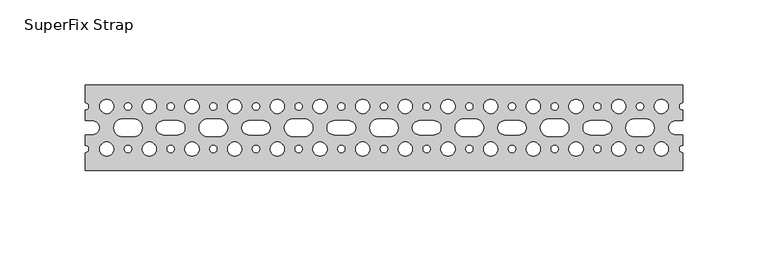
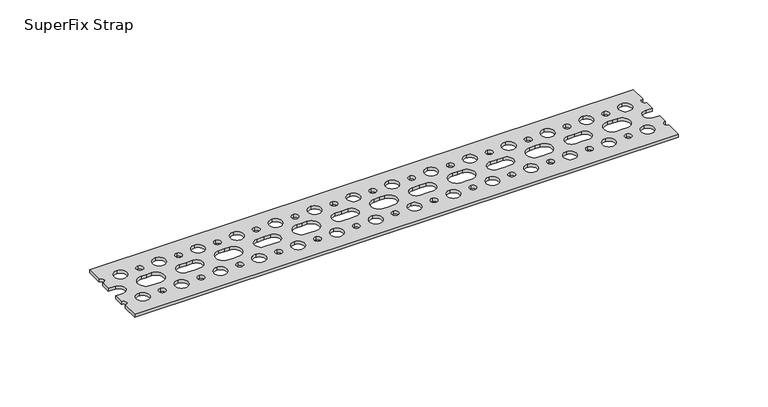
"""IFC4 building model written with IfcOpenShell, lengths in millimetres: valve geometry, Superfix Strap : SuperFix Strap."""

from ifc_helpers import new_model, si_unit, point, frame_2d, origin, origin_with_axes, place, context, project, spatial, polyline, circle_curve, trimmed, segment, composite_curve, outline, extrude, source, transform, mapped, element, save


def superfix_strap_43a990a7(model_context):
    return source(origin(), model_context, "Body", "SweptSolid", [
        extrude(outline(composite_curve([segment(polyline([(175.0, -25.0), (-175.0, -25.0), (-175.0, -14.65)]), True, "CONTINUOUS"), segment(trimmed(circle_curve(frame_2d((-175.0, -12.5)), 2.15), [point((-175.0, -14.65))], [point((-175.0, -10.35))], True, "CARTESIAN"), True, "CONTINUOUS"), segment(polyline([(-175.0, -10.35), (-175.0, -4.15), (-170.75, -4.15)]), True, "CONTINUOUS"), segment(trimmed(circle_curve(frame_2d((-170.75, 0.0)), 4.15), [point((-170.75, -4.15))], [point((-170.75, 4.15))], True, "CARTESIAN"), True, "CONTINUOUS"), segment(polyline([(-170.75, 4.15), (-175.0, 4.15), (-175.0, 10.35)]), True, "CONTINUOUS"), segment(trimmed(circle_curve(frame_2d((-175.0, 12.5)), 2.15), [point((-175.0, 10.35))], [point((-175.0, 14.65))], True, "CARTESIAN"), True, "CONTINUOUS"), segment(polyline([(-175.0, 14.65), (-175.0, 25.0), (175.0, 25.0), (175.0, 14.65)]), True, "CONTINUOUS"), segment(trimmed(circle_curve(frame_2d((175.0, 12.5)), 2.15), [point((175.0, 14.65))], [point((175.0, 10.35))], True, "CARTESIAN"), True, "CONTINUOUS"), segment(polyline([(175.0, 10.35), (175.0, 4.15), (170.75, 4.15)]), True, "CONTINUOUS"), segment(trimmed(circle_curve(frame_2d((170.75, 0.0)), 4.15), [point((170.75, 4.15))], [point((170.75, -4.15))], True, "CARTESIAN"), True, "CONTINUOUS"), segment(polyline([(170.75, -4.15), (175.0, -4.15), (175.0, -10.35)]), True, "CONTINUOUS"), segment(trimmed(circle_curve(frame_2d((175.0, -12.5)), 2.15), [point((175.0, -10.35))], [point((175.0, -14.65))], True, "CARTESIAN"), True, "CONTINUOUS"), segment(polyline([(175.0, -14.65), (175.0, -25.0)]), True, "CONTINUOUS")], self_intersect=False), holes=[composite_curve([segment(polyline([(25.0, 4.15), (20.75, 4.15)]), True, "CONTINUOUS"), segment(trimmed(circle_curve(frame_2d((20.75, 0.0)), 4.15), [point((20.75, 4.15))], [point((20.75, -4.15))], True, "CARTESIAN"), True, "CONTINUOUS"), segment(polyline([(20.75, -4.15), (25.0, -4.15), (29.25, -4.15)]), True, "CONTINUOUS"), segment(trimmed(circle_curve(frame_2d((29.25, 0.0)), 4.15), [point((29.25, -4.15))], [point((29.25, 4.15))], True, "CARTESIAN"), True, "CONTINUOUS"), segment(polyline([(29.25, 4.15), (25.0, 4.15)]), True, "CONTINUOUS")], self_intersect=False), composite_curve([segment(polyline([(0.0, 5.15), (-3.25, 5.15)]), True, "CONTINUOUS"), segment(trimmed(circle_curve(frame_2d((-3.25, 0.0)), 5.15), [point((-3.25, 5.15))], [point((-3.25, -5.15))], True, "CARTESIAN"), True, "CONTINUOUS"), segment(polyline([(-3.25, -5.15), (0.0, -5.15), (3.25, -5.15)]), True, "CONTINUOUS"), segment(trimmed(circle_curve(frame_2d((3.25, 0.0)), 5.15), [point((3.25, -5.15))], [point((3.25, 5.15))], True, "CARTESIAN"), True, "CONTINUOUS"), segment(polyline([(3.25, 5.15), (0.0, 5.15)]), True, "CONTINUOUS")], self_intersect=False), composite_curve([segment(trimmed(circle_curve(frame_2d((0.0, 12.5)), 2.15), [point((0.0, 14.65))], [point((0.0, 10.35))], True, "CARTESIAN"), True, "CONTINUOUS"), segment(trimmed(circle_curve(frame_2d((0.0, 12.5)), 2.15), [point((0.0, 10.35))], [point((0.0, 14.65))], True, "CARTESIAN"), True, "CONTINUOUS")], self_intersect=False), composite_curve([segment(trimmed(circle_curve(frame_2d((25.0, 12.5)), 2.15), [point((25.0, 14.65))], [point((25.0, 10.35))], True, "CARTESIAN"), True, "CONTINUOUS"), segment(trimmed(circle_curve(frame_2d((25.0, 12.5)), 2.15), [point((25.0, 10.35))], [point((25.0, 14.65))], True, "CARTESIAN"), True, "CONTINUOUS")], self_intersect=False), composite_curve([segment(trimmed(circle_curve(frame_2d((25.0, -12.5)), 2.15), [point((25.0, -10.35))], [point((25.0, -14.65))], True, "CARTESIAN"), True, "CONTINUOUS"), segment(trimmed(circle_curve(frame_2d((25.0, -12.5)), 2.15), [point((25.0, -14.65))], [point((25.0, -10.35))], True, "CARTESIAN"), True, "CONTINUOUS")], self_intersect=False), composite_curve([segment(trimmed(circle_curve(frame_2d((0.0, -12.5)), 2.15), [point((0.0, -10.35))], [point((0.0, -14.65))], True, "CARTESIAN"), True, "CONTINUOUS"), segment(trimmed(circle_curve(frame_2d((0.0, -12.5)), 2.15), [point((0.0, -14.65))], [point((0.0, -10.35))], True, "CARTESIAN"), True, "CONTINUOUS")], self_intersect=False), composite_curve([segment(trimmed(circle_curve(frame_2d((12.5, 12.5)), 4.15), [point((12.5, 16.65))], [point((12.5, 8.35))], True, "CARTESIAN"), True, "CONTINUOUS"), segment(trimmed(circle_curve(frame_2d((12.5, 12.5)), 4.15), [point((12.5, 8.35))], [point((12.5, 16.65))], True, "CARTESIAN"), True, "CONTINUOUS")], self_intersect=False), composite_curve([segment(trimmed(circle_curve(frame_2d((12.5, -12.5)), 4.15), [point((12.5, -8.35))], [point((12.5, -16.65))], True, "CARTESIAN"), True, "CONTINUOUS"), segment(trimmed(circle_curve(frame_2d((12.5, -12.5)), 4.15), [point((12.5, -16.65))], [point((12.5, -8.35))], True, "CARTESIAN"), True, "CONTINUOUS")], self_intersect=False), composite_curve([segment(trimmed(circle_curve(frame_2d((37.5, 12.5)), 4.15), [point((37.5, 16.65))], [point((37.5, 8.35))], True, "CARTESIAN"), True, "CONTINUOUS"), segment(trimmed(circle_curve(frame_2d((37.5, 12.5)), 4.15), [point((37.5, 8.35))], [point((37.5, 16.65))], True, "CARTESIAN"), True, "CONTINUOUS")], self_intersect=False), composite_curve([segment(trimmed(circle_curve(frame_2d((37.5, -12.5)), 4.15), [point((37.5, -8.35))], [point((37.5, -16.65))], True, "CARTESIAN"), True, "CONTINUOUS"), segment(trimmed(circle_curve(frame_2d((37.5, -12.5)), 4.15), [point((37.5, -16.65))], [point((37.5, -8.35))], True, "CARTESIAN"), True, "CONTINUOUS")], self_intersect=False), composite_curve([segment(trimmed(circle_curve(frame_2d((-20.75, 0.0)), 4.15), [point((-20.75, -4.15))], [point((-20.75, 4.15))], True, "CARTESIAN"), True, "CONTINUOUS"), segment(polyline([(-20.75, 4.15), (-25.0, 4.15), (-29.25, 4.15)]), True, "CONTINUOUS"), segment(trimmed(circle_curve(frame_2d((-29.25, 0.0)), 4.15), [point((-29.25, 4.15))], [point((-29.25, -4.15))], True, "CARTESIAN"), True, "CONTINUOUS"), segment(polyline([(-29.25, -4.15), (-25.0, -4.15), (-20.75, -4.15)]), True, "CONTINUOUS")], self_intersect=False), composite_curve([segment(trimmed(circle_curve(frame_2d((-25.0, 12.5)), 2.15), [point((-25.0, 14.65))], [point((-25.0, 10.35))], True, "CARTESIAN"), True, "CONTINUOUS"), segment(trimmed(circle_curve(frame_2d((-25.0, 12.5)), 2.15), [point((-25.0, 10.35))], [point((-25.0, 14.65))], True, "CARTESIAN"), True, "CONTINUOUS")], self_intersect=False), composite_curve([segment(trimmed(circle_curve(frame_2d((-25.0, -12.5)), 2.15), [point((-25.0, -10.35))], [point((-25.0, -14.65))], True, "CARTESIAN"), True, "CONTINUOUS"), segment(trimmed(circle_curve(frame_2d((-25.0, -12.5)), 2.15), [point((-25.0, -14.65))], [point((-25.0, -10.35))], True, "CARTESIAN"), True, "CONTINUOUS")], self_intersect=False), composite_curve([segment(trimmed(circle_curve(frame_2d((-12.5, 12.5)), 4.15), [point((-12.5, 16.65))], [point((-12.5, 8.35))], True, "CARTESIAN"), True, "CONTINUOUS"), segment(trimmed(circle_curve(frame_2d((-12.5, 12.5)), 4.15), [point((-12.5, 8.35))], [point((-12.5, 16.65))], True, "CARTESIAN"), True, "CONTINUOUS")], self_intersect=False), composite_curve([segment(trimmed(circle_curve(frame_2d((-12.5, -12.5)), 4.15), [point((-12.5, -8.35))], [point((-12.5, -16.65))], True, "CARTESIAN"), True, "CONTINUOUS"), segment(trimmed(circle_curve(frame_2d((-12.5, -12.5)), 4.15), [point((-12.5, -16.65))], [point((-12.5, -8.35))], True, "CARTESIAN"), True, "CONTINUOUS")], self_intersect=False), composite_curve([segment(polyline([(46.75, -5.15), (50.0, -5.15), (53.25, -5.15)]), True, "CONTINUOUS"), segment(trimmed(circle_curve(frame_2d((53.25, 0.0)), 5.15), [point((53.25, -5.15))], [point((53.25, 5.15))], True, "CARTESIAN"), True, "CONTINUOUS"), segment(polyline([(53.25, 5.15), (50.0, 5.15), (46.75, 5.15)]), True, "CONTINUOUS"), segment(trimmed(circle_curve(frame_2d((46.75, 0.0)), 5.15), [point((46.75, 5.15))], [point((46.75, -5.15))], True, "CARTESIAN"), True, "CONTINUOUS")], self_intersect=False), composite_curve([segment(trimmed(circle_curve(frame_2d((50.0, 12.5)), 2.15), [point((50.0, 14.65))], [point((50.0, 10.35))], True, "CARTESIAN"), True, "CONTINUOUS"), segment(trimmed(circle_curve(frame_2d((50.0, 12.5)), 2.15), [point((50.0, 10.35))], [point((50.0, 14.65))], True, "CARTESIAN"), True, "CONTINUOUS")], self_intersect=False), composite_curve([segment(trimmed(circle_curve(frame_2d((50.0, -12.5)), 2.15), [point((50.0, -10.35))], [point((50.0, -14.65))], True, "CARTESIAN"), True, "CONTINUOUS"), segment(trimmed(circle_curve(frame_2d((50.0, -12.5)), 2.15), [point((50.0, -14.65))], [point((50.0, -10.35))], True, "CARTESIAN"), True, "CONTINUOUS")], self_intersect=False), composite_curve([segment(trimmed(circle_curve(frame_2d((-37.5, 12.5)), 4.15), [point((-37.5, 16.65))], [point((-37.5, 8.35))], True, "CARTESIAN"), True, "CONTINUOUS"), segment(trimmed(circle_curve(frame_2d((-37.5, 12.5)), 4.15), [point((-37.5, 8.35))], [point((-37.5, 16.65))], True, "CARTESIAN"), True, "CONTINUOUS")], self_intersect=False), composite_curve([segment(trimmed(circle_curve(frame_2d((-37.5, -12.5)), 4.15), [point((-37.5, -8.35))], [point((-37.5, -16.65))], True, "CARTESIAN"), True, "CONTINUOUS"), segment(trimmed(circle_curve(frame_2d((-37.5, -12.5)), 4.15), [point((-37.5, -16.65))], [point((-37.5, -8.35))], True, "CARTESIAN"), True, "CONTINUOUS")], self_intersect=False), composite_curve([segment(polyline([(125.0, 4.15), (120.75, 4.15)]), True, "CONTINUOUS"), segment(trimmed(circle_curve(frame_2d((120.75, 0.0)), 4.15), [point((120.75, 4.15))], [point((120.75, -4.15))], True, "CARTESIAN"), True, "CONTINUOUS"), segment(polyline([(120.75, -4.15), (125.0, -4.15), (129.25, -4.15)]), True, "CONTINUOUS"), segment(trimmed(circle_curve(frame_2d((129.25, 0.0)), 4.15), [point((129.25, -4.15))], [point((129.25, 4.15))], True, "CARTESIAN"), True, "CONTINUOUS"), segment(polyline([(129.25, 4.15), (125.0, 4.15)]), True, "CONTINUOUS")], self_intersect=False), composite_curve([segment(polyline([(100.0, 5.15), (96.75, 5.15)]), True, "CONTINUOUS"), segment(trimmed(circle_curve(frame_2d((96.75, 0.0)), 5.15), [point((96.75, 5.15))], [point((96.75, -5.15))], True, "CARTESIAN"), True, "CONTINUOUS"), segment(polyline([(96.75, -5.15), (100.0, -5.15), (103.25, -5.15)]), True, "CONTINUOUS"), segment(trimmed(circle_curve(frame_2d((103.25, 0.0)), 5.15), [point((103.25, -5.15))], [point((103.25, 5.15))], True, "CARTESIAN"), True, "CONTINUOUS"), segment(polyline([(103.25, 5.15), (100.0, 5.15)]), True, "CONTINUOUS")], self_intersect=False), composite_curve([segment(trimmed(circle_curve(frame_2d((100.0, 12.5)), 2.15), [point((100.0, 14.65))], [point((100.0, 10.35))], True, "CARTESIAN"), True, "CONTINUOUS"), segment(trimmed(circle_curve(frame_2d((100.0, 12.5)), 2.15), [point((100.0, 10.35))], [point((100.0, 14.65))], True, "CARTESIAN"), True, "CONTINUOUS")], self_intersect=False), composite_curve([segment(trimmed(circle_curve(frame_2d((125.0, 12.5)), 2.15), [point((125.0, 14.65))], [point((125.0, 10.35))], True, "CARTESIAN"), True, "CONTINUOUS"), segment(trimmed(circle_curve(frame_2d((125.0, 12.5)), 2.15), [point((125.0, 10.35))], [point((125.0, 14.65))], True, "CARTESIAN"), True, "CONTINUOUS")], self_intersect=False), composite_curve([segment(trimmed(circle_curve(frame_2d((125.0, -12.5)), 2.15), [point((125.0, -10.35))], [point((125.0, -14.65))], True, "CARTESIAN"), True, "CONTINUOUS"), segment(trimmed(circle_curve(frame_2d((125.0, -12.5)), 2.15), [point((125.0, -14.65))], [point((125.0, -10.35))], True, "CARTESIAN"), True, "CONTINUOUS")], self_intersect=False), composite_curve([segment(trimmed(circle_curve(frame_2d((100.0, -12.5)), 2.15), [point((100.0, -10.35))], [point((100.0, -14.65))], True, "CARTESIAN"), True, "CONTINUOUS"), segment(trimmed(circle_curve(frame_2d((100.0, -12.5)), 2.15), [point((100.0, -14.65))], [point((100.0, -10.35))], True, "CARTESIAN"), True, "CONTINUOUS")], self_intersect=False), composite_curve([segment(trimmed(circle_curve(frame_2d((112.5, 12.5)), 4.15), [point((112.5, 16.65))], [point((112.5, 8.35))], True, "CARTESIAN"), True, "CONTINUOUS"), segment(trimmed(circle_curve(frame_2d((112.5, 12.5)), 4.15), [point((112.5, 8.35))], [point((112.5, 16.65))], True, "CARTESIAN"), True, "CONTINUOUS")], self_intersect=False), composite_curve([segment(trimmed(circle_curve(frame_2d((112.5, -12.5)), 4.15), [point((112.5, -8.35))], [point((112.5, -16.65))], True, "CARTESIAN"), True, "CONTINUOUS"), segment(trimmed(circle_curve(frame_2d((112.5, -12.5)), 4.15), [point((112.5, -16.65))], [point((112.5, -8.35))], True, "CARTESIAN"), True, "CONTINUOUS")], self_intersect=False), composite_curve([segment(trimmed(circle_curve(frame_2d((137.5, 12.5)), 4.15), [point((137.5, 16.65))], [point((137.5, 8.35))], True, "CARTESIAN"), True, "CONTINUOUS"), segment(trimmed(circle_curve(frame_2d((137.5, 12.5)), 4.15), [point((137.5, 8.35))], [point((137.5, 16.65))], True, "CARTESIAN"), True, "CONTINUOUS")], self_intersect=False), composite_curve([segment(trimmed(circle_curve(frame_2d((137.5, -12.5)), 4.15), [point((137.5, -8.35))], [point((137.5, -16.65))], True, "CARTESIAN"), True, "CONTINUOUS"), segment(trimmed(circle_curve(frame_2d((137.5, -12.5)), 4.15), [point((137.5, -16.65))], [point((137.5, -8.35))], True, "CARTESIAN"), True, "CONTINUOUS")], self_intersect=False), composite_curve([segment(trimmed(circle_curve(frame_2d((79.25, 0.0)), 4.15), [point((79.25, -4.15))], [point((79.25, 4.15))], True, "CARTESIAN"), True, "CONTINUOUS"), segment(polyline([(79.25, 4.15), (75.0, 4.15), (70.75, 4.15)]), True, "CONTINUOUS"), segment(trimmed(circle_curve(frame_2d((70.75, 0.0)), 4.15), [point((70.75, 4.15))], [point((70.75, -4.15))], True, "CARTESIAN"), True, "CONTINUOUS"), segment(polyline([(70.75, -4.15), (75.0, -4.15), (79.25, -4.15)]), True, "CONTINUOUS")], self_intersect=False), composite_curve([segment(trimmed(circle_curve(frame_2d((75.0, 12.5)), 2.15), [point((75.0, 14.65))], [point((75.0, 10.35))], True, "CARTESIAN"), True, "CONTINUOUS"), segment(trimmed(circle_curve(frame_2d((75.0, 12.5)), 2.15), [point((75.0, 10.35))], [point((75.0, 14.65))], True, "CARTESIAN"), True, "CONTINUOUS")], self_intersect=False), composite_curve([segment(trimmed(circle_curve(frame_2d((75.0, -12.5)), 2.15), [point((75.0, -10.35))], [point((75.0, -14.65))], True, "CARTESIAN"), True, "CONTINUOUS"), segment(trimmed(circle_curve(frame_2d((75.0, -12.5)), 2.15), [point((75.0, -14.65))], [point((75.0, -10.35))], True, "CARTESIAN"), True, "CONTINUOUS")], self_intersect=False), composite_curve([segment(trimmed(circle_curve(frame_2d((87.5, 12.5)), 4.15), [point((87.5, 16.65))], [point((87.5, 8.35))], True, "CARTESIAN"), True, "CONTINUOUS"), segment(trimmed(circle_curve(frame_2d((87.5, 12.5)), 4.15), [point((87.5, 8.35))], [point((87.5, 16.65))], True, "CARTESIAN"), True, "CONTINUOUS")], self_intersect=False), composite_curve([segment(trimmed(circle_curve(frame_2d((87.5, -12.5)), 4.15), [point((87.5, -8.35))], [point((87.5, -16.65))], True, "CARTESIAN"), True, "CONTINUOUS"), segment(trimmed(circle_curve(frame_2d((87.5, -12.5)), 4.15), [point((87.5, -16.65))], [point((87.5, -8.35))], True, "CARTESIAN"), True, "CONTINUOUS")], self_intersect=False), composite_curve([segment(polyline([(146.75, -5.15), (150.0, -5.15), (153.25, -5.15)]), True, "CONTINUOUS"), segment(trimmed(circle_curve(frame_2d((153.25, 0.0)), 5.15), [point((153.25, -5.15))], [point((153.25, 5.15))], True, "CARTESIAN"), True, "CONTINUOUS"), segment(polyline([(153.25, 5.15), (150.0, 5.15), (146.75, 5.15)]), True, "CONTINUOUS"), segment(trimmed(circle_curve(frame_2d((146.75, 0.0)), 5.15), [point((146.75, 5.15))], [point((146.75, -5.15))], True, "CARTESIAN"), True, "CONTINUOUS")], self_intersect=False), composite_curve([segment(trimmed(circle_curve(frame_2d((150.0, 12.5)), 2.15), [point((150.0, 14.65))], [point((150.0, 10.35))], True, "CARTESIAN"), True, "CONTINUOUS"), segment(trimmed(circle_curve(frame_2d((150.0, 12.5)), 2.15), [point((150.0, 10.35))], [point((150.0, 14.65))], True, "CARTESIAN"), True, "CONTINUOUS")], self_intersect=False), composite_curve([segment(trimmed(circle_curve(frame_2d((150.0, -12.5)), 2.15), [point((150.0, -10.35))], [point((150.0, -14.65))], True, "CARTESIAN"), True, "CONTINUOUS"), segment(trimmed(circle_curve(frame_2d((150.0, -12.5)), 2.15), [point((150.0, -14.65))], [point((150.0, -10.35))], True, "CARTESIAN"), True, "CONTINUOUS")], self_intersect=False), composite_curve([segment(trimmed(circle_curve(frame_2d((62.5, 12.5)), 4.15), [point((62.5, 16.65))], [point((62.5, 8.35))], True, "CARTESIAN"), True, "CONTINUOUS"), segment(trimmed(circle_curve(frame_2d((62.5, 12.5)), 4.15), [point((62.5, 8.35))], [point((62.5, 16.65))], True, "CARTESIAN"), True, "CONTINUOUS")], self_intersect=False), composite_curve([segment(trimmed(circle_curve(frame_2d((62.5, -12.5)), 4.15), [point((62.5, -8.35))], [point((62.5, -16.65))], True, "CARTESIAN"), True, "CONTINUOUS"), segment(trimmed(circle_curve(frame_2d((62.5, -12.5)), 4.15), [point((62.5, -16.65))], [point((62.5, -8.35))], True, "CARTESIAN"), True, "CONTINUOUS")], self_intersect=False), composite_curve([segment(polyline([(-75.0, 4.15), (-79.25, 4.15)]), True, "CONTINUOUS"), segment(trimmed(circle_curve(frame_2d((-79.25, 0.0)), 4.15), [point((-79.25, 4.15))], [point((-79.25, -4.15))], True, "CARTESIAN"), True, "CONTINUOUS"), segment(polyline([(-79.25, -4.15), (-75.0, -4.15), (-70.75, -4.15)]), True, "CONTINUOUS"), segment(trimmed(circle_curve(frame_2d((-70.75, 0.0)), 4.15), [point((-70.75, -4.15))], [point((-70.75, 4.15))], True, "CARTESIAN"), True, "CONTINUOUS"), segment(polyline([(-70.75, 4.15), (-75.0, 4.15)]), True, "CONTINUOUS")], self_intersect=False), composite_curve([segment(polyline([(-100.0, 5.15), (-103.25, 5.15)]), True, "CONTINUOUS"), segment(trimmed(circle_curve(frame_2d((-103.25, 0.0)), 5.15), [point((-103.25, 5.15))], [point((-103.25, -5.15))], True, "CARTESIAN"), True, "CONTINUOUS"), segment(polyline([(-103.25, -5.15), (-100.0, -5.15), (-96.75, -5.15)]), True, "CONTINUOUS"), segment(trimmed(circle_curve(frame_2d((-96.75, 0.0)), 5.15), [point((-96.75, -5.15))], [point((-96.75, 5.15))], True, "CARTESIAN"), True, "CONTINUOUS"), segment(polyline([(-96.75, 5.15), (-100.0, 5.15)]), True, "CONTINUOUS")], self_intersect=False), composite_curve([segment(trimmed(circle_curve(frame_2d((-100.0, 12.5)), 2.15), [point((-100.0, 14.65))], [point((-100.0, 10.35))], True, "CARTESIAN"), True, "CONTINUOUS"), segment(trimmed(circle_curve(frame_2d((-100.0, 12.5)), 2.15), [point((-100.0, 10.35))], [point((-100.0, 14.65))], True, "CARTESIAN"), True, "CONTINUOUS")], self_intersect=False), composite_curve([segment(trimmed(circle_curve(frame_2d((-75.0, 12.5)), 2.15), [point((-75.0, 14.65))], [point((-75.0, 10.35))], True, "CARTESIAN"), True, "CONTINUOUS"), segment(trimmed(circle_curve(frame_2d((-75.0, 12.5)), 2.15), [point((-75.0, 10.35))], [point((-75.0, 14.65))], True, "CARTESIAN"), True, "CONTINUOUS")], self_intersect=False), composite_curve([segment(trimmed(circle_curve(frame_2d((-75.0, -12.5)), 2.15), [point((-75.0, -10.35))], [point((-75.0, -14.65))], True, "CARTESIAN"), True, "CONTINUOUS"), segment(trimmed(circle_curve(frame_2d((-75.0, -12.5)), 2.15), [point((-75.0, -14.65))], [point((-75.0, -10.35))], True, "CARTESIAN"), True, "CONTINUOUS")], self_intersect=False), composite_curve([segment(trimmed(circle_curve(frame_2d((-100.0, -12.5)), 2.15), [point((-100.0, -10.35))], [point((-100.0, -14.65))], True, "CARTESIAN"), True, "CONTINUOUS"), segment(trimmed(circle_curve(frame_2d((-100.0, -12.5)), 2.15), [point((-100.0, -14.65))], [point((-100.0, -10.35))], True, "CARTESIAN"), True, "CONTINUOUS")], self_intersect=False), composite_curve([segment(trimmed(circle_curve(frame_2d((-87.5, 12.5)), 4.15), [point((-87.5, 16.65))], [point((-87.5, 8.35))], True, "CARTESIAN"), True, "CONTINUOUS"), segment(trimmed(circle_curve(frame_2d((-87.5, 12.5)), 4.15), [point((-87.5, 8.35))], [point((-87.5, 16.65))], True, "CARTESIAN"), True, "CONTINUOUS")], self_intersect=False), composite_curve([segment(trimmed(circle_curve(frame_2d((-87.5, -12.5)), 4.15), [point((-87.5, -8.35))], [point((-87.5, -16.65))], True, "CARTESIAN"), True, "CONTINUOUS"), segment(trimmed(circle_curve(frame_2d((-87.5, -12.5)), 4.15), [point((-87.5, -16.65))], [point((-87.5, -8.35))], True, "CARTESIAN"), True, "CONTINUOUS")], self_intersect=False), composite_curve([segment(trimmed(circle_curve(frame_2d((-62.5, 12.5)), 4.15), [point((-62.5, 16.65))], [point((-62.5, 8.35))], True, "CARTESIAN"), True, "CONTINUOUS"), segment(trimmed(circle_curve(frame_2d((-62.5, 12.5)), 4.15), [point((-62.5, 8.35))], [point((-62.5, 16.65))], True, "CARTESIAN"), True, "CONTINUOUS")], self_intersect=False), composite_curve([segment(trimmed(circle_curve(frame_2d((-62.5, -12.5)), 4.15), [point((-62.5, -8.35))], [point((-62.5, -16.65))], True, "CARTESIAN"), True, "CONTINUOUS"), segment(trimmed(circle_curve(frame_2d((-62.5, -12.5)), 4.15), [point((-62.5, -16.65))], [point((-62.5, -8.35))], True, "CARTESIAN"), True, "CONTINUOUS")], self_intersect=False), composite_curve([segment(trimmed(circle_curve(frame_2d((-120.75, 0.0)), 4.15), [point((-120.75, -4.15))], [point((-120.75, 4.15))], True, "CARTESIAN"), True, "CONTINUOUS"), segment(polyline([(-120.75, 4.15), (-125.0, 4.15), (-129.25, 4.15)]), True, "CONTINUOUS"), segment(trimmed(circle_curve(frame_2d((-129.25, 0.0)), 4.15), [point((-129.25, 4.15))], [point((-129.25, -4.15))], True, "CARTESIAN"), True, "CONTINUOUS"), segment(polyline([(-129.25, -4.15), (-125.0, -4.15), (-120.75, -4.15)]), True, "CONTINUOUS")], self_intersect=False), composite_curve([segment(trimmed(circle_curve(frame_2d((-125.0, 12.5)), 2.15), [point((-125.0, 14.65))], [point((-125.0, 10.35))], True, "CARTESIAN"), True, "CONTINUOUS"), segment(trimmed(circle_curve(frame_2d((-125.0, 12.5)), 2.15), [point((-125.0, 10.35))], [point((-125.0, 14.65))], True, "CARTESIAN"), True, "CONTINUOUS")], self_intersect=False), composite_curve([segment(trimmed(circle_curve(frame_2d((-125.0, -12.5)), 2.15), [point((-125.0, -10.35))], [point((-125.0, -14.65))], True, "CARTESIAN"), True, "CONTINUOUS"), segment(trimmed(circle_curve(frame_2d((-125.0, -12.5)), 2.15), [point((-125.0, -14.65))], [point((-125.0, -10.35))], True, "CARTESIAN"), True, "CONTINUOUS")], self_intersect=False), composite_curve([segment(trimmed(circle_curve(frame_2d((-112.5, 12.5)), 4.15), [point((-112.5, 16.65))], [point((-112.5, 8.35))], True, "CARTESIAN"), True, "CONTINUOUS"), segment(trimmed(circle_curve(frame_2d((-112.5, 12.5)), 4.15), [point((-112.5, 8.35))], [point((-112.5, 16.65))], True, "CARTESIAN"), True, "CONTINUOUS")], self_intersect=False), composite_curve([segment(trimmed(circle_curve(frame_2d((-112.5, -12.5)), 4.15), [point((-112.5, -8.35))], [point((-112.5, -16.65))], True, "CARTESIAN"), True, "CONTINUOUS"), segment(trimmed(circle_curve(frame_2d((-112.5, -12.5)), 4.15), [point((-112.5, -16.65))], [point((-112.5, -8.35))], True, "CARTESIAN"), True, "CONTINUOUS")], self_intersect=False), composite_curve([segment(polyline([(-53.25, -5.15), (-50.0, -5.15), (-46.75, -5.15)]), True, "CONTINUOUS"), segment(trimmed(circle_curve(frame_2d((-46.75, 0.0)), 5.15), [point((-46.75, -5.15))], [point((-46.75, 5.15))], True, "CARTESIAN"), True, "CONTINUOUS"), segment(polyline([(-46.75, 5.15), (-50.0, 5.15), (-53.25, 5.15)]), True, "CONTINUOUS"), segment(trimmed(circle_curve(frame_2d((-53.25, 0.0)), 5.15), [point((-53.25, 5.15))], [point((-53.25, -5.15))], True, "CARTESIAN"), True, "CONTINUOUS")], self_intersect=False), composite_curve([segment(trimmed(circle_curve(frame_2d((-50.0, 12.5)), 2.15), [point((-50.0, 14.65))], [point((-50.0, 10.35))], True, "CARTESIAN"), True, "CONTINUOUS"), segment(trimmed(circle_curve(frame_2d((-50.0, 12.5)), 2.15), [point((-50.0, 10.35))], [point((-50.0, 14.65))], True, "CARTESIAN"), True, "CONTINUOUS")], self_intersect=False), composite_curve([segment(trimmed(circle_curve(frame_2d((-50.0, -12.5)), 2.15), [point((-50.0, -10.35))], [point((-50.0, -14.65))], True, "CARTESIAN"), True, "CONTINUOUS"), segment(trimmed(circle_curve(frame_2d((-50.0, -12.5)), 2.15), [point((-50.0, -14.65))], [point((-50.0, -10.35))], True, "CARTESIAN"), True, "CONTINUOUS")], self_intersect=False), composite_curve([segment(trimmed(circle_curve(frame_2d((-137.5, 12.5)), 4.15), [point((-137.5, 16.65))], [point((-137.5, 8.35))], True, "CARTESIAN"), True, "CONTINUOUS"), segment(trimmed(circle_curve(frame_2d((-137.5, 12.5)), 4.15), [point((-137.5, 8.35))], [point((-137.5, 16.65))], True, "CARTESIAN"), True, "CONTINUOUS")], self_intersect=False), composite_curve([segment(trimmed(circle_curve(frame_2d((-137.5, -12.5)), 4.15), [point((-137.5, -8.35))], [point((-137.5, -16.65))], True, "CARTESIAN"), True, "CONTINUOUS"), segment(trimmed(circle_curve(frame_2d((-137.5, -12.5)), 4.15), [point((-137.5, -16.65))], [point((-137.5, -8.35))], True, "CARTESIAN"), True, "CONTINUOUS")], self_intersect=False), composite_curve([segment(trimmed(circle_curve(frame_2d((162.5, 12.5)), 4.15), [point((162.5, 16.65))], [point((162.5, 8.35))], True, "CARTESIAN"), True, "CONTINUOUS"), segment(trimmed(circle_curve(frame_2d((162.5, 12.5)), 4.15), [point((162.5, 8.35))], [point((162.5, 16.65))], True, "CARTESIAN"), True, "CONTINUOUS")], self_intersect=False), composite_curve([segment(trimmed(circle_curve(frame_2d((162.5, -12.5)), 4.15), [point((162.5, -8.35))], [point((162.5, -16.65))], True, "CARTESIAN"), True, "CONTINUOUS"), segment(trimmed(circle_curve(frame_2d((162.5, -12.5)), 4.15), [point((162.5, -16.65))], [point((162.5, -8.35))], True, "CARTESIAN"), True, "CONTINUOUS")], self_intersect=False), composite_curve([segment(trimmed(circle_curve(frame_2d((-162.5, 12.5)), 4.15), [point((-162.5, 16.65))], [point((-162.5, 8.35))], True, "CARTESIAN"), True, "CONTINUOUS"), segment(trimmed(circle_curve(frame_2d((-162.5, 12.5)), 4.15), [point((-162.5, 8.35))], [point((-162.5, 16.65))], True, "CARTESIAN"), True, "CONTINUOUS")], self_intersect=False), composite_curve([segment(trimmed(circle_curve(frame_2d((-162.5, -12.5)), 4.15), [point((-162.5, -8.35))], [point((-162.5, -16.65))], True, "CARTESIAN"), True, "CONTINUOUS"), segment(trimmed(circle_curve(frame_2d((-162.5, -12.5)), 4.15), [point((-162.5, -16.65))], [point((-162.5, -8.35))], True, "CARTESIAN"), True, "CONTINUOUS")], self_intersect=False), composite_curve([segment(polyline([(-153.25, -5.15), (-150.0, -5.15), (-146.75, -5.15)]), True, "CONTINUOUS"), segment(trimmed(circle_curve(frame_2d((-146.75, 0.0)), 5.15), [point((-146.75, -5.15))], [point((-146.75, 5.15))], True, "CARTESIAN"), True, "CONTINUOUS"), segment(polyline([(-146.75, 5.15), (-150.0, 5.15), (-153.25, 5.15)]), True, "CONTINUOUS"), segment(trimmed(circle_curve(frame_2d((-153.25, 0.0)), 5.15), [point((-153.25, 5.15))], [point((-153.25, -5.15))], True, "CARTESIAN"), True, "CONTINUOUS")], self_intersect=False), composite_curve([segment(trimmed(circle_curve(frame_2d((-150.0, 12.5)), 2.15), [point((-150.0, 14.65))], [point((-150.0, 10.35))], True, "CARTESIAN"), True, "CONTINUOUS"), segment(trimmed(circle_curve(frame_2d((-150.0, 12.5)), 2.15), [point((-150.0, 10.35))], [point((-150.0, 14.65))], True, "CARTESIAN"), True, "CONTINUOUS")], self_intersect=False), composite_curve([segment(trimmed(circle_curve(frame_2d((-150.0, -12.5)), 2.15), [point((-150.0, -10.35))], [point((-150.0, -14.65))], True, "CARTESIAN"), True, "CONTINUOUS"), segment(trimmed(circle_curve(frame_2d((-150.0, -12.5)), 2.15), [point((-150.0, -14.65))], [point((-150.0, -10.35))], True, "CARTESIAN"), True, "CONTINUOUS")], self_intersect=False)]), origin_with_axes(), (0.0, 0.0, 1.0), 2.0),
    ])


if __name__ == "__main__":
    model = new_model("IFC4")
    model_context = context("Model", 3, world=origin())
    ifc_project = project(units=[si_unit("LENGTHUNIT", "METRE", prefix="MILLI")], contexts=[model_context])
    site = spatial("IfcSite", under=ifc_project)
    building = spatial("IfcBuilding", under=site)
    placement = place(None, origin())
    superfix_strap_shape = superfix_strap_43a990a7(model_context)
    element("IfcValve", 1, ObjectType="Superfix Strap : SuperFix Strap", at=placement, inside=building, context=model_context, shape_type="MappedRepresentation", body=[
        mapped(superfix_strap_shape, transform((0.0, 0.0, 0.0), x_axis=(1.0, 0.0, 0.0), y_axis=(0.0, 1.0, 0.0), z_axis=(0.0, 0.0, 1.0))),
    ])
    save(model, "model.ifc")
